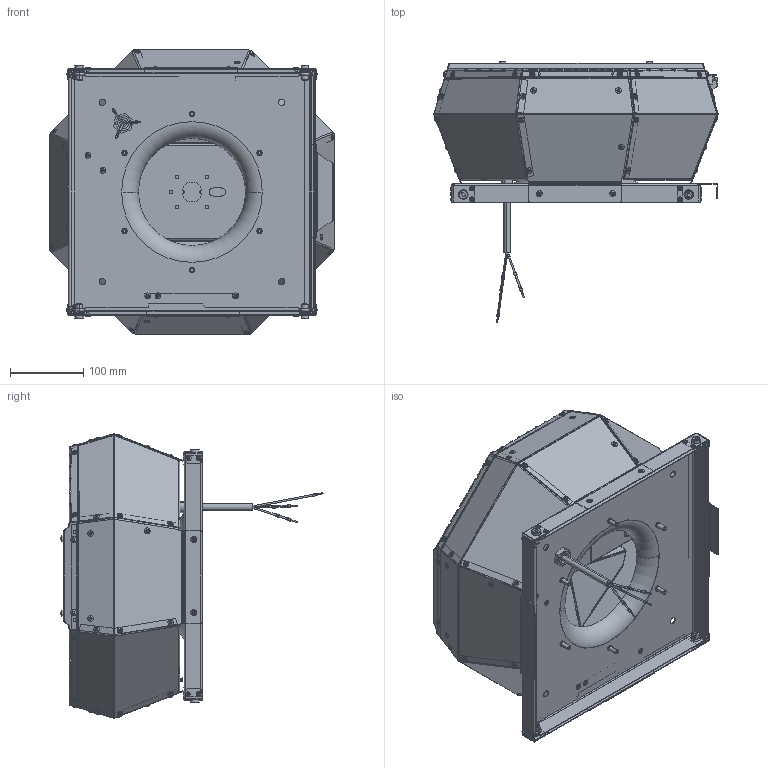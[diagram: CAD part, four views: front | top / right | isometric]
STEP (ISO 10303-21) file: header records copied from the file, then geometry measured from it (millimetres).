
FILE_DESCRIPTION (( 'STEP AP203' ), '1' );
FILE_NAME ('139332-00_DVA225E2P31.STEP', '2017-03-31T09:12:24', ( '' ), ( '' ), 'SwSTEP 2.0', 'SolidWorks 2012', '' );
FILE_SCHEMA (( 'CONFIG_CONTROL_DESIGN' ));
Length unit declared in the file: millimetre
Products named in the file (1): 139332-00_DVA225E2P31
Bounding box: 388.45 x 357.99 x 388.42 mm (x, y, z)
Surface area: 1081777.5 mm2 (no closed solid volume)
Topology: 0 solids, 228 shells, 2688 faces, 8589 edges, 5860 vertices
Faces by surface type: plane 1501, cylinder 746, torus 311, bspline 80, cone 50
Entity records: 96687 total; most frequent: CARTESIAN_POINT 21511, DIRECTION 15975, ORIENTED_EDGE 13305, EDGE_CURVE 8589, VERTEX_POINT 5860, AXIS2_PLACEMENT_3D 5349, VECTOR 5277, LINE 5277
